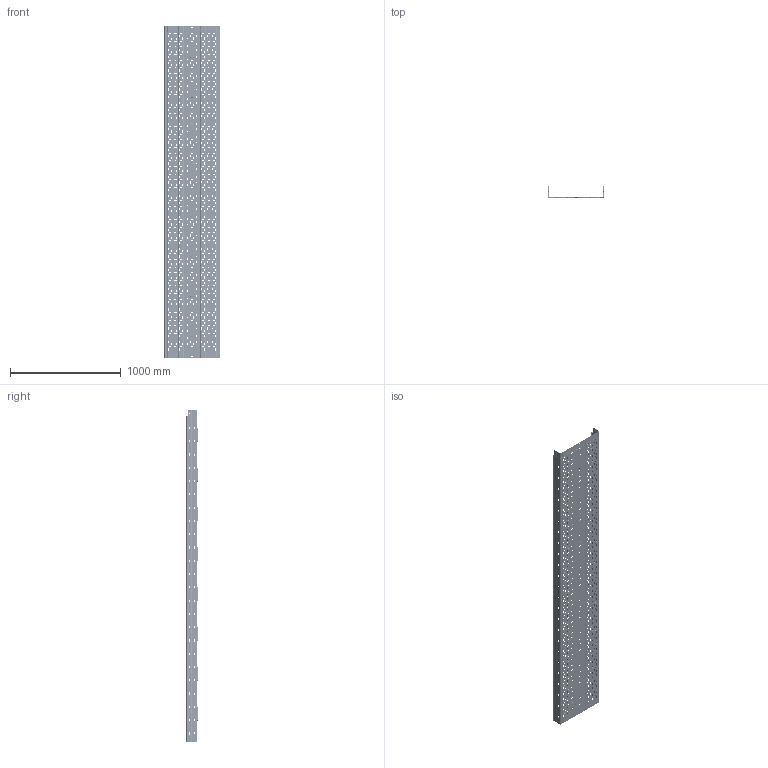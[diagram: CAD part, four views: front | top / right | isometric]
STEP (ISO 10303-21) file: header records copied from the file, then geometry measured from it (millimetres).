
FILE_DESCRIPTION (( 'STEP AP203' ), '1' );
FILE_NAME ('ERE 500x100 500x100.step', '2023-07-27T16:56:22', ( '' ), ( '' ), 'SwSTEP 2.0', 'SolidWorks 2022', '' );
FILE_SCHEMA (( 'CONFIG_CONTROL_DESIGN' ));
Products named in the file (1): ERE 500x100 500x100
Bounding box: 500 x 100.8 x 3000 mm (x, y, z)
Surface area: 4044147.9 mm2 (no closed solid volume)
Topology: 0 solids, 3 shells, 15024 faces, 44361 edges, 29394 vertices
Faces by surface type: plane 12070, cylinder 2754, bspline 127, torus 64, cone 9
Entity records: 500949 total; most frequent: CARTESIAN_POINT 91113, ORIENTED_EDGE 88367, DIRECTION 79668, EDGE_CURVE 44334, VECTOR 38556, LINE 38556, VERTEX_POINT 29394, AXIS2_PLACEMENT_3D 20556
